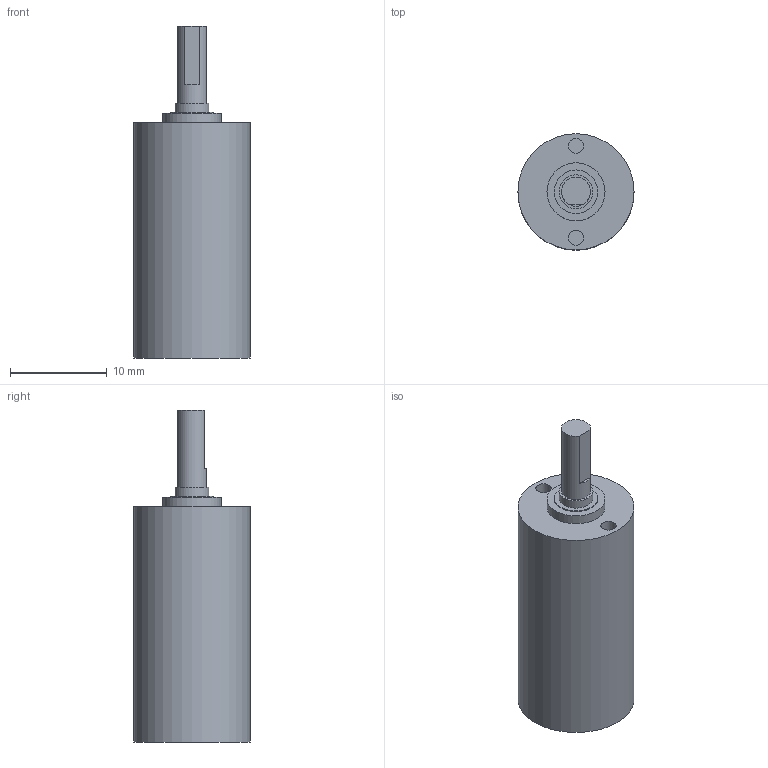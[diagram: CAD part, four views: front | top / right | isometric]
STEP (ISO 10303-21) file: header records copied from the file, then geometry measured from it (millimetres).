
FILE_DESCRIPTION((''),'2;1');
FILE_NAME('G:\Disegni\Progetti\D8500÷D8599\D8514\Riduttori\E - Riduttori STEP - SBZ\12_4K STEP\12_4K 3stage.stp','2012-05-24T15:52:39',('bonazzoli'),(''),'Autodesk Inventor 2012','Autodesk Inventor 2012','');
FILE_SCHEMA(('AUTOMOTIVE_DESIGN { 1 0 10303 214 1 1 1 1 }'));
Length unit declared in the file: millimetre
Products named in the file (1): 12_4K 3stage
Bounding box: 12 x 12 x 34.3 mm (x, y, z)
Volume: 2834.4 mm3; surface area: 1267.1 mm2
Topology: 1 solids, 1 shells, 17 faces, 27 edges, 18 vertices
Faces by surface type: plane 10, cylinder 7
Full cylindrical faces by diameter (mm): 1.567 x2, 3 x1, 3.5 x1, 4.5 x1, 6 x1, 12 x1
Entity records: 378 total; most frequent: DIRECTION 70, CARTESIAN_POINT 54, ORIENTED_EDGE 38, AXIS2_PLACEMENT_3D 33, EDGE_LOOP 30, EDGE_CURVE 19, VERTEX_POINT 17, FACE_OUTER_BOUND 17
